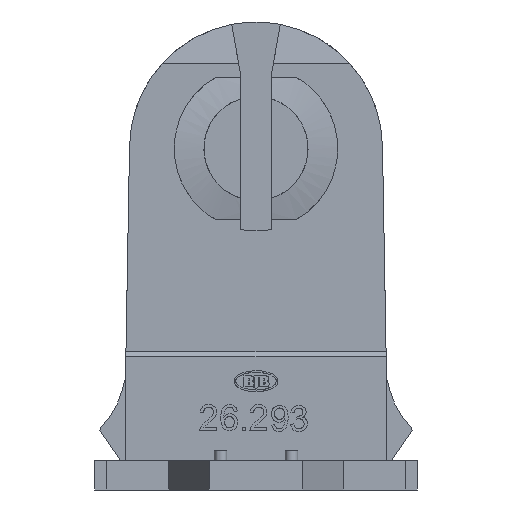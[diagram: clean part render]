
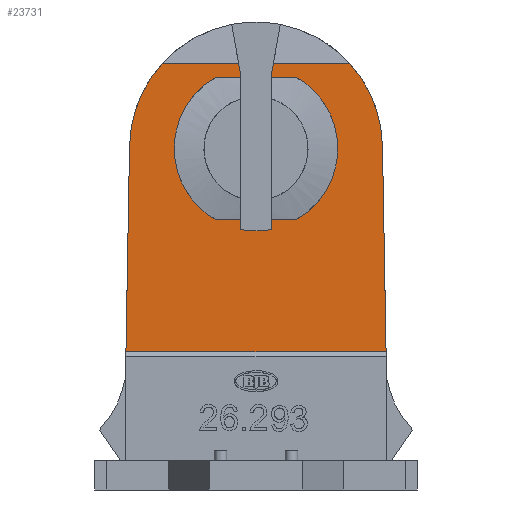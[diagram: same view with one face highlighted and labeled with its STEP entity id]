
A CAD part, front view. The second image highlights one B-rep face of the part: STEP entity #23731.
In plain terms, the highlighted planar face has unit normal (0, -1, 0).
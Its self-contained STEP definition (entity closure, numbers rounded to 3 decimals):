
#13461=CARTESIAN_POINT(' ',(-12.492,-8.3,-19.5));
#13462=VERTEX_POINT(' ',#13461);
#13476=CARTESIAN_POINT(' ',(-12.492,-8.3,-19.5));
#13481=DIRECTION(' ',(0.017,0.,1.));
#13486=VECTOR(' ',#13481,1.);
#13491=LINE('',#13476,#13486);
#13496=CARTESIAN_POINT(' ',(-12.148,-8.3,0.212));
#13497=VERTEX_POINT(' ',#13496);
#13501=EDGE_CURVE(' ',#13462,#13497,#13491,.T.);
#13611=CARTESIAN_POINT(' ',(-8.984,-8.3,8.18));
#13612=VERTEX_POINT(' ',#13611);
#13766=CARTESIAN_POINT(' ',(8.984,-8.3,8.18));
#13767=VERTEX_POINT(' ',#13766);
#13781=CARTESIAN_POINT(' ',(0.,-8.3,0.));
#13786=DIRECTION(' ',(0.,1.,0.));
#13791=DIRECTION(' ',(0.739,0.,0.673));
#13796=AXIS2_PLACEMENT_3D(' ',#13781,#13786,#13791);
#13801=CIRCLE('',#13796,12.15);
#13806=CARTESIAN_POINT(' ',(12.148,-8.3,0.212));
#13807=VERTEX_POINT(' ',#13806);
#13811=EDGE_CURVE(' ',#13767,#13807,#13801,.T.);
#13861=CARTESIAN_POINT(' ',(0.,-8.3,0.));
#13866=DIRECTION(' ',(-0.,1.,0.));
#13871=DIRECTION(' ',(-1.,0.,0.017));
#13876=AXIS2_PLACEMENT_3D(' ',#13861,#13866,#13871);
#13881=CIRCLE('',#13876,12.15);
#13886=EDGE_CURVE(' ',#13497,#13612,#13881,.T.);
#14406=CARTESIAN_POINT(' ',(12.148,-8.3,0.212));
#14411=DIRECTION(' ',(0.017,0.,-1.));
#14416=VECTOR(' ',#14411,1.);
#14421=LINE('',#14406,#14416);
#14426=CARTESIAN_POINT(' ',(12.492,-8.3,-19.5));
#14427=VERTEX_POINT(' ',#14426);
#14431=EDGE_CURVE(' ',#13807,#14427,#14421,.T.);
#14616=CARTESIAN_POINT(' ',(12.492,-8.3,-19.5));
#14621=DIRECTION(' ',(-1.,0.,0.));
#14626=VECTOR(' ',#14621,1.);
#14631=LINE('',#14616,#14626);
#14636=EDGE_CURVE(' ',#14427,#13462,#14631,.T.);
#23136=DIRECTION(' ',(-0.,-1.,0.));
#23141=CARTESIAN_POINT(' ',(-12.492,-8.3,-19.5));
#23146=DIRECTION(' ',(1.,0.,-0.));
#23151=AXIS2_PLACEMENT_3D(' ',#23141,#23136,#23146);
#23156=PLANE('',#23151);
#23161=CARTESIAN_POINT(' ',(-3.834,-8.3,6.85));
#23166=DIRECTION(' ',(1.,0.,0.));
#23171=VECTOR(' ',#23166,1.);
#23176=LINE('',#23161,#23171);
#23181=CARTESIAN_POINT(' ',(-3.834,-8.3,6.85));
#23182=VERTEX_POINT(' ',#23181);
#23186=CARTESIAN_POINT(' ',(-1.5,-8.3,6.85));
#23187=VERTEX_POINT(' ',#23186);
#23191=EDGE_CURVE(' ',#23182,#23187,#23176,.T.);
#23196=ORIENTED_EDGE(' ',*,*,#23191,.T.);
#23201=CARTESIAN_POINT(' ',(-1.5,-8.3,6.85));
#23206=DIRECTION(' ',(0.,0.,1.));
#23211=VECTOR(' ',#23206,1.);
#23216=LINE('',#23201,#23211);
#23221=CARTESIAN_POINT(' ',(-1.5,-8.3,7.188));
#23222=VERTEX_POINT(' ',#23221);
#23226=EDGE_CURVE(' ',#23187,#23222,#23216,.T.);
#23231=ORIENTED_EDGE(' ',*,*,#23226,.T.);
#23236=CARTESIAN_POINT(' ',(-1.5,-8.3,7.188));
#23241=DIRECTION(' ',(-0.174,0.,0.985));
#23246=VECTOR(' ',#23241,1.);
#23251=LINE('',#23236,#23246);
#23256=CARTESIAN_POINT(' ',(-1.675,-8.3,8.18));
#23257=VERTEX_POINT(' ',#23256);
#23261=EDGE_CURVE(' ',#23222,#23257,#23251,.T.);
#23266=ORIENTED_EDGE(' ',*,*,#23261,.T.);
#23271=CARTESIAN_POINT(' ',(-1.675,-8.3,8.18));
#23276=DIRECTION(' ',(-1.,0.,0.));
#23281=VECTOR(' ',#23276,1.);
#23286=LINE('',#23271,#23281);
#23291=EDGE_CURVE(' ',#23257,#13612,#23286,.T.);
#23296=ORIENTED_EDGE(' ',*,*,#23291,.T.);
#23301=ORIENTED_EDGE(' ',*,*,#13886,.F.);
#23306=ORIENTED_EDGE(' ',*,*,#13501,.F.);
#23311=ORIENTED_EDGE(' ',*,*,#14636,.F.);
#23316=ORIENTED_EDGE(' ',*,*,#14431,.F.);
#23321=ORIENTED_EDGE(' ',*,*,#13811,.F.);
#23326=CARTESIAN_POINT(' ',(8.984,-8.3,8.18));
#23331=DIRECTION(' ',(-1.,0.,0.));
#23336=VECTOR(' ',#23331,1.);
#23341=LINE('',#23326,#23336);
#23346=CARTESIAN_POINT(' ',(1.675,-8.3,8.18));
#23347=VERTEX_POINT(' ',#23346);
#23351=EDGE_CURVE(' ',#13767,#23347,#23341,.T.);
#23356=ORIENTED_EDGE(' ',*,*,#23351,.T.);
#23361=CARTESIAN_POINT(' ',(1.675,-8.3,8.18));
#23366=DIRECTION(' ',(-0.174,0.,-0.985));
#23371=VECTOR(' ',#23366,1.);
#23376=LINE('',#23361,#23371);
#23381=CARTESIAN_POINT(' ',(1.5,-8.3,7.188));
#23382=VERTEX_POINT(' ',#23381);
#23386=EDGE_CURVE(' ',#23347,#23382,#23376,.T.);
#23391=ORIENTED_EDGE(' ',*,*,#23386,.T.);
#23396=CARTESIAN_POINT(' ',(1.5,-8.3,7.188));
#23401=DIRECTION(' ',(0.,0.,-1.));
#23406=VECTOR(' ',#23401,1.);
#23411=LINE('',#23396,#23406);
#23416=CARTESIAN_POINT(' ',(1.5,-8.3,6.85));
#23417=VERTEX_POINT(' ',#23416);
#23421=EDGE_CURVE(' ',#23382,#23417,#23411,.T.);
#23426=ORIENTED_EDGE(' ',*,*,#23421,.T.);
#23431=CARTESIAN_POINT(' ',(1.5,-8.3,6.85));
#23436=DIRECTION(' ',(1.,0.,0.));
#23441=VECTOR(' ',#23436,1.);
#23446=LINE('',#23431,#23441);
#23451=CARTESIAN_POINT(' ',(3.834,-8.3,6.85));
#23452=VERTEX_POINT(' ',#23451);
#23456=EDGE_CURVE(' ',#23417,#23452,#23446,.T.);
#23461=ORIENTED_EDGE(' ',*,*,#23456,.T.);
#23466=CARTESIAN_POINT(' ',(0.,-8.3,0.));
#23471=DIRECTION(' ',(0.,1.,0.));
#23476=DIRECTION(' ',(0.488,0.,0.873));
#23481=AXIS2_PLACEMENT_3D(' ',#23466,#23471,#23476);
#23486=CIRCLE('',#23481,7.85);
#23491=CARTESIAN_POINT(' ',(3.834,-8.3,-6.85));
#23492=VERTEX_POINT(' ',#23491);
#23496=EDGE_CURVE(' ',#23452,#23492,#23486,.T.);
#23501=ORIENTED_EDGE(' ',*,*,#23496,.T.);
#23506=CARTESIAN_POINT(' ',(3.834,-8.3,-6.85));
#23511=DIRECTION(' ',(-1.,0.,0.));
#23516=VECTOR(' ',#23511,1.);
#23521=LINE('',#23506,#23516);
#23526=CARTESIAN_POINT(' ',(1.5,-8.3,-6.85));
#23527=VERTEX_POINT(' ',#23526);
#23531=EDGE_CURVE(' ',#23492,#23527,#23521,.T.);
#23536=ORIENTED_EDGE(' ',*,*,#23531,.T.);
#23541=CARTESIAN_POINT(' ',(1.5,-8.3,-6.85));
#23546=DIRECTION(' ',(0.,0.,-1.));
#23551=VECTOR(' ',#23546,1.);
#23556=LINE('',#23541,#23551);
#23561=CARTESIAN_POINT(' ',(1.5,-8.3,-7.782));
#23562=VERTEX_POINT(' ',#23561);
#23566=EDGE_CURVE(' ',#23527,#23562,#23556,.T.);
#23571=ORIENTED_EDGE(' ',*,*,#23566,.T.);
#23576=CARTESIAN_POINT(' ',(0.,-8.3,0.));
#23581=DIRECTION(' ',(0.,1.,-0.));
#23586=DIRECTION(' ',(0.189,0.,-0.982));
#23591=AXIS2_PLACEMENT_3D(' ',#23576,#23581,#23586);
#23596=CIRCLE('',#23591,7.925);
#23601=CARTESIAN_POINT(' ',(-1.5,-8.3,-7.782));
#23602=VERTEX_POINT(' ',#23601);
#23606=EDGE_CURVE(' ',#23562,#23602,#23596,.T.);
#23611=ORIENTED_EDGE(' ',*,*,#23606,.T.);
#23616=CARTESIAN_POINT(' ',(-1.5,-8.3,-7.782));
#23621=DIRECTION(' ',(0.,0.,1.));
#23626=VECTOR(' ',#23621,1.);
#23631=LINE('',#23616,#23626);
#23636=CARTESIAN_POINT(' ',(-1.5,-8.3,-6.85));
#23637=VERTEX_POINT(' ',#23636);
#23641=EDGE_CURVE(' ',#23602,#23637,#23631,.T.);
#23646=ORIENTED_EDGE(' ',*,*,#23641,.T.);
#23651=CARTESIAN_POINT(' ',(-1.5,-8.3,-6.85));
#23656=DIRECTION(' ',(-1.,0.,0.));
#23661=VECTOR(' ',#23656,1.);
#23666=LINE('',#23651,#23661);
#23671=CARTESIAN_POINT(' ',(-3.834,-8.3,-6.85));
#23672=VERTEX_POINT(' ',#23671);
#23676=EDGE_CURVE(' ',#23637,#23672,#23666,.T.);
#23681=ORIENTED_EDGE(' ',*,*,#23676,.T.);
#23686=CARTESIAN_POINT(' ',(0.,-8.3,0.));
#23691=DIRECTION(' ',(-0.,1.,0.));
#23696=DIRECTION(' ',(-0.488,0.,-0.873));
#23701=AXIS2_PLACEMENT_3D(' ',#23686,#23691,#23696);
#23706=CIRCLE('',#23701,7.85);
#23711=EDGE_CURVE(' ',#23672,#23182,#23706,.T.);
#23716=ORIENTED_EDGE(' ',*,*,#23711,.T.);
#23721=EDGE_LOOP(' ',(#23196,#23231,#23266,#23296,#23301,#23306,#23311,#23316,#23321,#23356,#23391,#23426,#23461,#23501,#23536,#23571,#23611,#23646,#23681,#23716));
#23726=FACE_OUTER_BOUND(' ',#23721,.T.);
#23731=ADVANCED_FACE('',(#23726),#23156,.T.);
